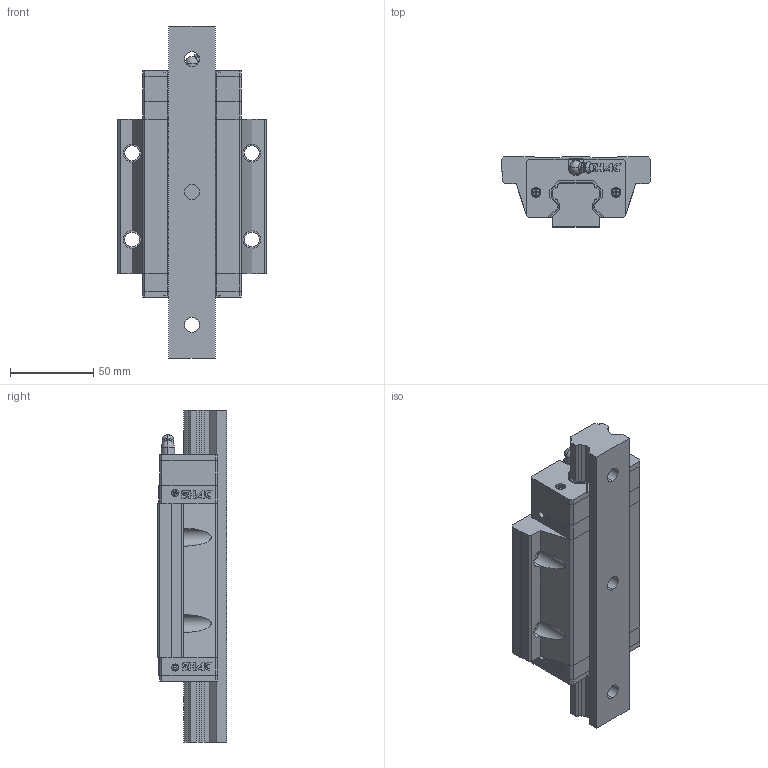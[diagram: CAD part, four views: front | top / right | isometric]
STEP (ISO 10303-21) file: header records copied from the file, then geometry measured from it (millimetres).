
FILE_DESCRIPTION (( 'STEP AP214' ), '1' );
FILE_NAME ('STP_GHW30HB_(E2)自润式_(R)上锁式_刮油片＋防尘条_1_200_200_GHW30HB_GHW30HB.step', '2020-06-27T08:28:06', ( 'IT Division' ), ( 'IT' ), 'SwSTEP 2.0', 'SolidWorks 2016', '' );
FILE_SCHEMA (( 'AUTOMOTIVE_DESIGN' ));
Length unit declared in the file: millimetre
Products named in the file (3): STP_GHW30HB_(E2)自润式_(R)上锁式_刮油片＋防尘条_1_200_200_GHW30HB_GHW30HB_1; STP_GHW30HB_(E2)自润式_(R)上锁式_刮油片＋防尘条_1_200_200_GHW30HB_GHW30HB; STP_GHW30HB_(E2)自润式_(R)上锁式_刮油片＋防尘条_1_200_200_GHW30HB_GHW30HB_2
Assembly tree (2 placements, depth 2):
  STP_GHW30HB_(E2)自润式_(R)上锁式_刮油片＋防尘条_1_200_200_GHW30HB_GHW30HB
    STP_GHW30HB_(E2)自润式_(R)上锁式_刮油片＋防尘条_1_200_200_GHW30HB_GHW30HB_1
    STP_GHW30HB_(E2)自润式_(R)上锁式_刮油片＋防尘条_1_200_200_GHW30HB_GHW30HB_2
Bounding box: 90 x 42 x 200 mm (x, y, z)
Volume: 393470 mm3; surface area: 85687.1 mm2
Topology: 8 solids, 8 shells, 853 faces, 2295 edges, 1510 vertices
Faces by surface type: plane 633, cylinder 162, torus 25, cone 23, sphere 10
Entity records: 30460 total; most frequent: CARTESIAN_POINT 4845, ORIENTED_EDGE 4582, DIRECTION 4436, EDGE_CURVE 2291, LINE 1782, VECTOR 1782, VERTEX_POINT 1508, AXIS2_PLACEMENT_3D 1327
